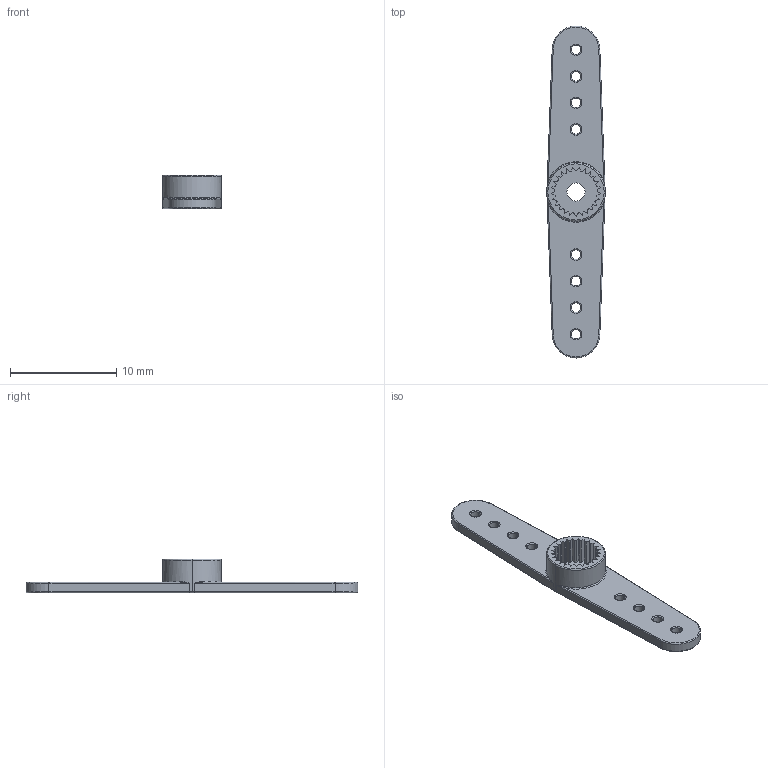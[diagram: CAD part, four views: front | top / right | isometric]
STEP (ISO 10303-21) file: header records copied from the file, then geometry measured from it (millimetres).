
FILE_DESCRIPTION (( 'STEP AP203' ), '1' );
FILE_NAME ('Micro sized Servo Mount - x4_Double Extended .step', '2015-09-06T16:23:00', ( '' ), ( '' ), 'SwSTEP 2.0', 'SolidWorks 2015', '' );
FILE_SCHEMA (( 'CONFIG_CONTROL_DESIGN' ));
Length unit declared in the file: millimetre
Products named in the file (1): Micro sized Servo Mount - x4_Double Extended 
Bounding box: 5.5 x 31.3 x 3.2 mm (x, y, z)
Volume: 157.8 mm3; surface area: 467.4 mm2
Topology: 1 solids, 1 shells, 174 faces, 449 edges, 279 vertices
Faces by surface type: cylinder 61, plane 60, torus 49, bspline 4
Entity records: 5718 total; most frequent: CARTESIAN_POINT 1219, DIRECTION 999, ORIENTED_EDGE 898, EDGE_CURVE 449, AXIS2_PLACEMENT_3D 387, VERTEX_POINT 279, LINE 225, VECTOR 225
